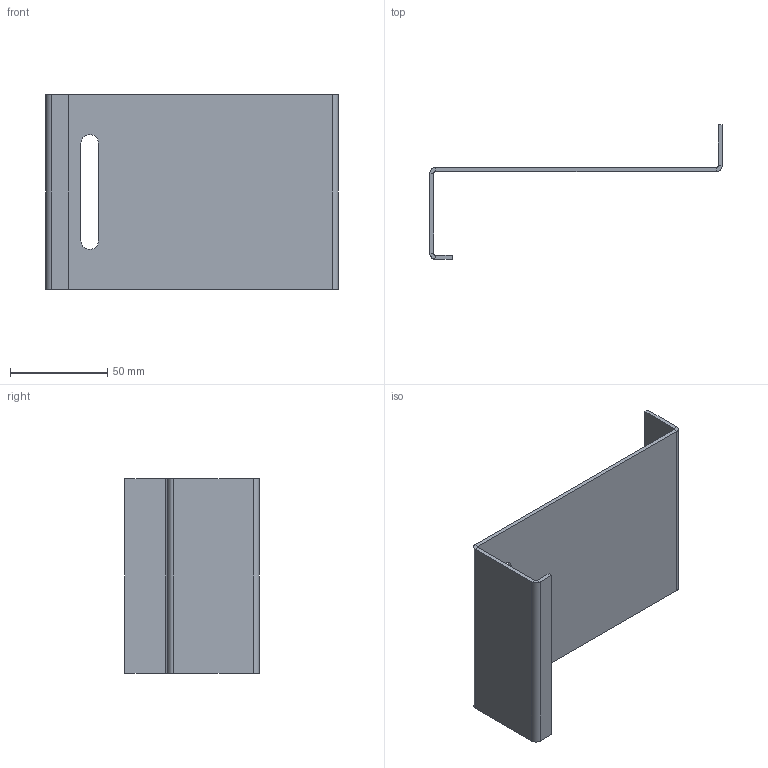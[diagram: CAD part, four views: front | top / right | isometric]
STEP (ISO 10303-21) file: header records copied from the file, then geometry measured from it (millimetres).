
FILE_DESCRIPTION (( 'STEP AP203' ), '1' );
FILE_NAME ('084.106.117.STEP', '2013-01-23T13:03:24', ( 'Alusic' ), ( 'Alusic' ), 'SwSTEP 2.0', 'SolidWorks 2011', '' );
FILE_SCHEMA (( 'CONFIG_CONTROL_DESIGN' ));
Length unit declared in the file: millimetre
Products named in the file (1): 084.106.117
Bounding box: 150 x 69 x 100 mm (x, y, z)
Volume: 43757.7 mm3; surface area: 45310 mm2
Topology: 1 solids, 1 shells, 35 faces, 75 edges, 42 vertices
Faces by surface type: plane 26, cylinder 9
Entity records: 996 total; most frequent: DIRECTION 165, CARTESIAN_POINT 153, ORIENTED_EDGE 150, EDGE_CURVE 75, VECTOR 57, LINE 57, AXIS2_PLACEMENT_3D 54, VERTEX_POINT 42
